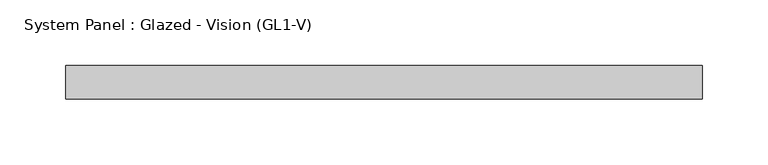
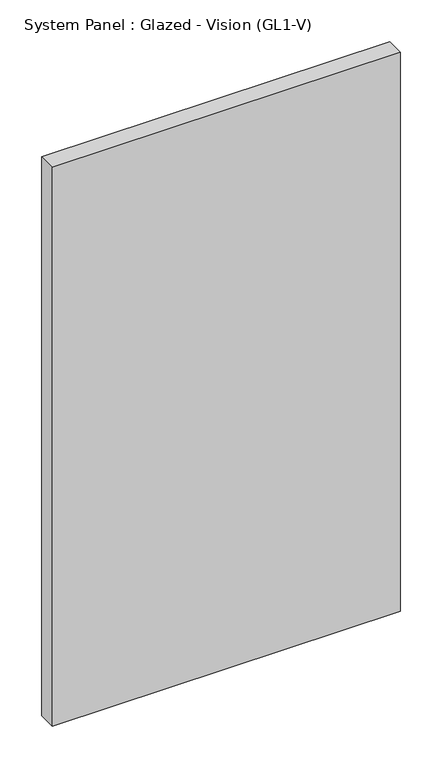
"""IFC4 building model written with IfcOpenShell, lengths in millimetres: plate geometry, System Panel : Glazed - Vision (GL1-V)."""

from ifc_helpers import new_model, si_unit, origin, origin_with_axes, place, context, project, spatial, polyline, outline, extrude, source, transform, mapped, element, save


def system_panel_glazed_vision_gl1_v_2f0c6503(model_context):
    return source(origin(), model_context, "Body", "SweptSolid", [
        extrude(outline(polyline([(241.3, -25.4), (-241.3, -25.4), (-241.3, 0.0), (241.3, 0.0), (241.3, -25.4)])), origin_with_axes(), (0.0, 0.0, 1.0), 819.15),
    ])


if __name__ == "__main__":
    model = new_model("IFC4")
    model_context = context("Model", 3, world=origin())
    ifc_project = project(units=[si_unit("LENGTHUNIT", "METRE", prefix="MILLI")], contexts=[model_context])
    site = spatial("IfcSite", under=ifc_project)
    building = spatial("IfcBuilding", under=site)
    placement = place(None, origin())
    system_panel_glazed_vision_gl1_v_shape = system_panel_glazed_vision_gl1_v_2f0c6503(model_context)
    element("IfcPlate", 1, ObjectType="System Panel : Glazed - Vision (GL1-V)", at=placement, inside=building, context=model_context, shape_type="MappedRepresentation", body=[
        mapped(system_panel_glazed_vision_gl1_v_shape, transform((0.0, 0.0, 0.0), x_axis=(1.0, 0.0, 0.0), y_axis=(0.0, 1.0, 0.0), z_axis=(0.0, 0.0, 1.0))),
    ])
    save(model, "model.ifc")
